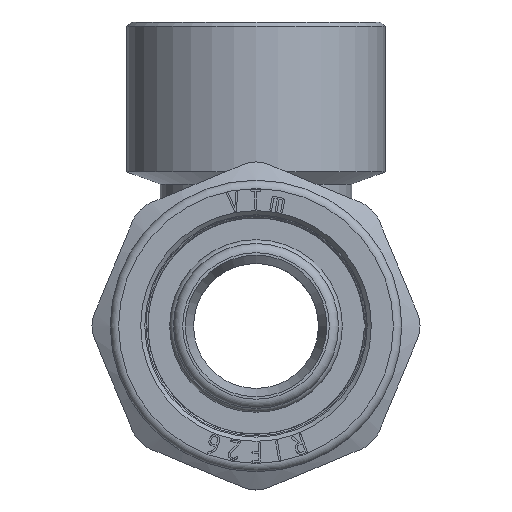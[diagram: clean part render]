
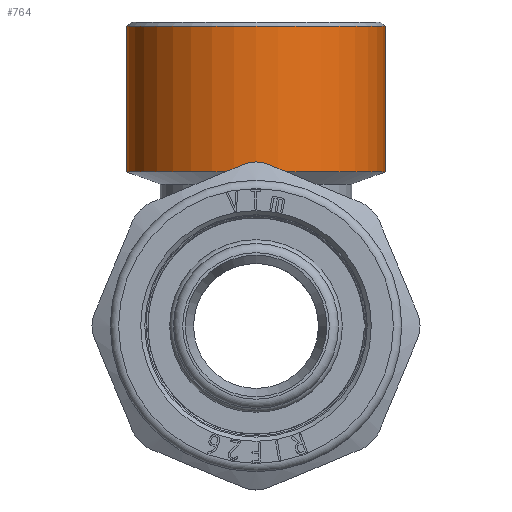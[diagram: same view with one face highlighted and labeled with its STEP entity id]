
A CAD part, front view. The second image highlights one B-rep face of the part: STEP entity #764.
In plain terms, the highlighted cylindrical face has radius 15.5 mm (diameter 31 mm), a full revolution.
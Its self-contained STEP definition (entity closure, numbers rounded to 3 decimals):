
#764=ADVANCED_FACE('',(#5846,#5848),#5850,.T.);
#5846=FACE_OUTER_BOUND('',#5847,.T.);
#5847=EDGE_LOOP('',(#11176));
#5848=FACE_OUTER_BOUND('',#5849,.T.);
#5849=EDGE_LOOP('',(#11177));
#5850=CYLINDRICAL_SURFACE('',#5851,15.5);
#5851=AXIS2_PLACEMENT_3D('',#5852,#5853,#5854);
#5852=CARTESIAN_POINT('',(0.,0.,18.5));
#5853=DIRECTION('',(0.,0.,1.));
#5854=DIRECTION('',(-1.,0.,0.));
#11176=ORIENTED_EDGE('',*,*,#13294,.F.);
#11177=ORIENTED_EDGE('',*,*,#13219,.F.);
#13219=EDGE_CURVE('',#16518,#16518,#16519,.F.);
#13294=EDGE_CURVE('',#16632,#16632,#16633,.T.);
#16518=VERTEX_POINT('',#27985);
#16519=CIRCLE('',#27986,15.5);
#16632=VERTEX_POINT('',#28252);
#16633=CIRCLE('',#28253,15.5);
#27985=CARTESIAN_POINT('',(-15.5,0.,18.5));
#27986=AXIS2_PLACEMENT_3D('',#27987,#27988,#27989);
#27987=CARTESIAN_POINT('',(0.,0.,18.5));
#27988=DIRECTION('',(0.,0.,1.));
#27989=DIRECTION('',(-1.,0.,0.));
#28252=CARTESIAN_POINT('',(-15.5,0.,36.));
#28253=AXIS2_PLACEMENT_3D('',#28254,#28255,#28256);
#28254=CARTESIAN_POINT('',(0.,0.,36.));
#28255=DIRECTION('',(0.,0.,1.));
#28256=DIRECTION('',(-1.,0.,0.));
